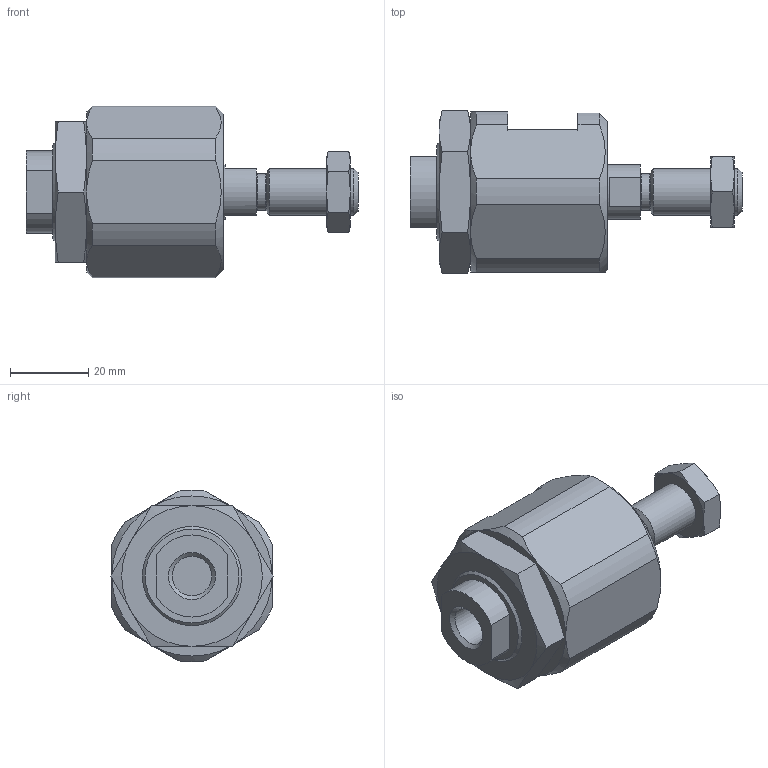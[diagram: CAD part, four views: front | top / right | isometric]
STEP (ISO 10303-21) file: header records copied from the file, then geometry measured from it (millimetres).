
FILE_DESCRIPTION( ( 'STEP AP203' ), '1' );
FILE_NAME( 'C:/Temp/Ganter_Step_05_03_2020/data/3_6/gn240_2/Rapid plug-in coupling GN 240.2-M12 (0).stp', '2020-03-12T14:08:23', ( 'License CC BY-ND 4.0' ), ( 'CADENAS' ), ' ', 'PARTsolutions', ' ' );
FILE_SCHEMA( ( 'CONFIG_CONTROL_DESIGN' ) );
Length unit declared in the file: millimetre
Products named in the file (4): Rapid plug-in coupling GN 240.2-M12 (0); _Rapid plug-in coupling GN 240.2-M12 (0)-1; _Rapid plug-in coupling GN 240.2-M12 (0)-5; _Rapid plug-in coupling GN 240.2-M12 (0)-4
Assembly tree (3 placements, depth 2):
  Rapid plug-in coupling GN 240.2-M12 (0)
    _Rapid plug-in coupling GN 240.2-M12 (0)-1
    _Rapid plug-in coupling GN 240.2-M12 (0)-5
    _Rapid plug-in coupling GN 240.2-M12 (0)-4
Bounding box: 85 x 41.57 x 43.94 mm (x, y, z)
Volume: 54221.2 mm3; surface area: 17322.8 mm2
Topology: 3 solids, 3 shells, 105 faces, 236 edges, 145 vertices
Faces by surface type: plane 44, cone 39, cylinder 19, torus 2, sphere 1
Full cylindrical faces by diameter (mm): 9.4 x1, 10.106 x2, 12 x1, 14 x1, 26.6 x2
Entity records: 3156 total; most frequent: CARTESIAN_POINT 829, DIRECTION 451, ORIENTED_EDGE 430, EDGE_CURVE 215, AXIS2_PLACEMENT_3D 194, VERTEX_POINT 142, EDGE_LOOP 135, FACE_OUTER_BOUND 115
